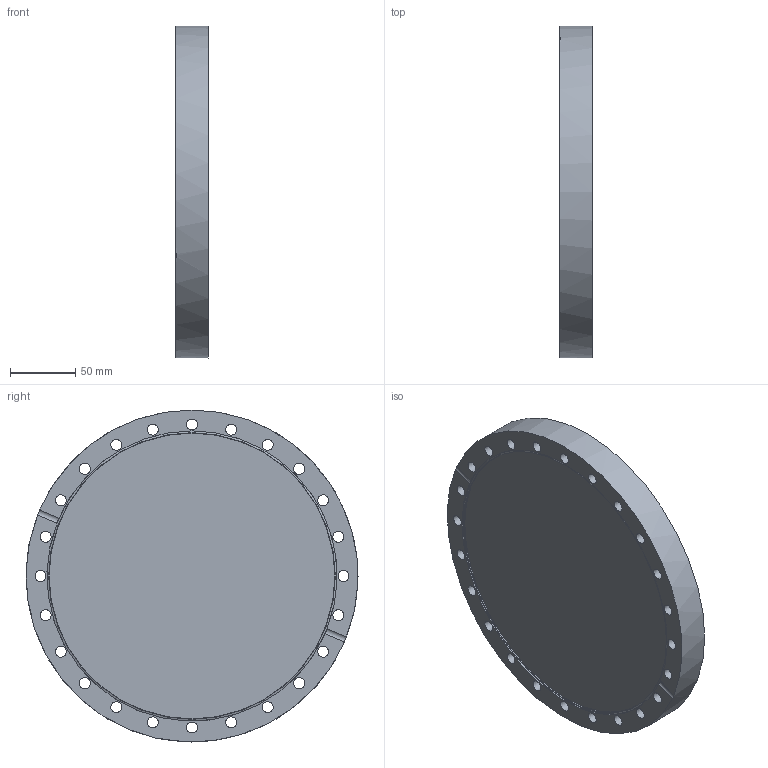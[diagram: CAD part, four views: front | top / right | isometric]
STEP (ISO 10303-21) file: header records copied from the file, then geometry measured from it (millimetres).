
FILE_DESCRIPTION( ( 'Unknown' ), '1' );
FILE_NAME( 'X:/Daten ( aktueller Bestand )/Projekte und Zeichnungen/Solid Edge/STP-Dateien/CF-Teile/7426F.stp', 'Unknown', ( 'Unknown' ), ( 'Unknown' ), 'PSStep 14.0', 'Unknown', ' ' );
FILE_SCHEMA( ( 'AUTOMOTIVE_DESIGN { 1 0 10303 214 1 1 1 1 }' ) );
Length unit declared in the file: millimetre
Products named in the file (1): 1
Bounding box: 24.6 x 254 x 254 mm (x, y, z)
Volume: 1163993.6 mm3; surface area: 135039.6 mm2
Topology: 1 solids, 1 shells, 34 faces, 118 edges, 86 vertices
Faces by surface type: cylinder 28, plane 4, cone 2
Full cylindrical faces by diameter (mm): 8.4 x24, 222 x1, 254 x1
Entity records: 1404 total; most frequent: CARTESIAN_POINT 227, DIRECTION 186, ORIENTED_EDGE 128, EDGE_LOOP 110, AXIS2_PLACEMENT_3D 91, EDGE_CURVE 64, FACE_OUTER_BOUND 60, VERTEX_POINT 60
